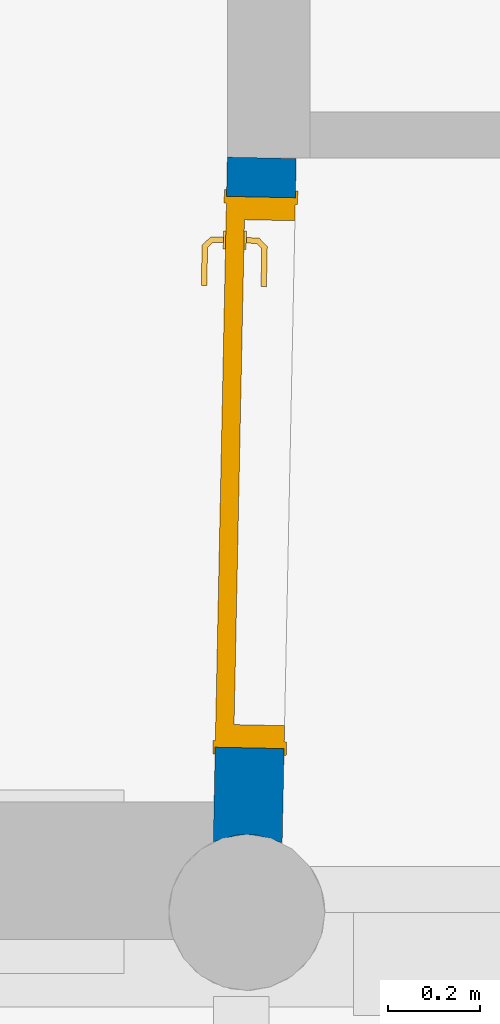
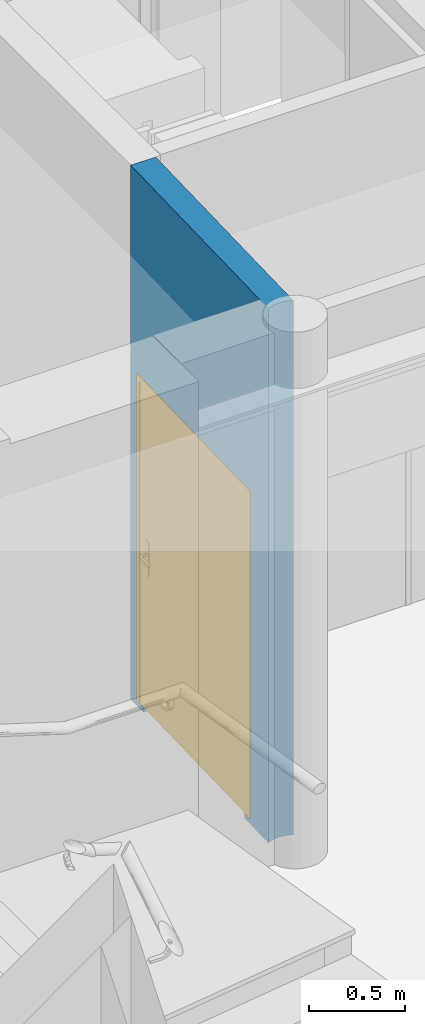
# One storey, part 42 of 65: 1 door, 1 wall, 1 opening.
"""IFC4 building model written with IfcOpenShell, lengths in metres."""

from ifc_helpers import new_model, entity, si_unit, converted_unit, derived_unit, direction, frame, origin, place, context, subcontext, project, spatial, indexed_curve, outline, extrude, polygons, source, transform, mapped, material, material_list, layer, layer_set, constituent, constituent_set, type_object, type_shapes, element, fill, save


model = new_model("IFC4")

# Units and contexts
model_context = context("Model", 3, precision=1e-05, world=origin(), true_north=direction((6.12303176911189e-17, 1.0)))
body_context = subcontext(model_context, "Body", "Model", "MODEL_VIEW")
ifc_project = project(units=[si_unit("LENGTHUNIT", "METRE"), si_unit("AREAUNIT", "SQUARE_METRE"), si_unit("VOLUMEUNIT", "CUBIC_METRE"), converted_unit("PLANEANGLEUNIT", "DEGREE", entity("IfcRatioMeasure", 0.0174532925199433), si_unit("PLANEANGLEUNIT", "RADIAN"), dimensions=[0, 0, 0, 0, 0, 0, 0]), si_unit("MASSUNIT", "GRAM", prefix="KILO"), derived_unit("MASSDENSITYUNIT", [(si_unit("MASSUNIT", "GRAM", prefix="KILO"), 1), (si_unit("LENGTHUNIT", "METRE"), -3)]), derived_unit("MOMENTOFINERTIAUNIT", [(si_unit("LENGTHUNIT", "METRE"), 4)]), si_unit("TIMEUNIT", "SECOND"), si_unit("FREQUENCYUNIT", "HERTZ"), si_unit("THERMODYNAMICTEMPERATUREUNIT", "DEGREE_CELSIUS"), derived_unit("THERMALTRANSMITTANCEUNIT", [(si_unit("MASSUNIT", "GRAM", prefix="KILO"), 1), (si_unit("THERMODYNAMICTEMPERATUREUNIT", "KELVIN"), -1), (si_unit("TIMEUNIT", "SECOND"), -3)]), derived_unit("VOLUMETRICFLOWRATEUNIT", [(si_unit("LENGTHUNIT", "METRE"), 3), (si_unit("TIMEUNIT", "SECOND"), -1)]), si_unit("ELECTRICCURRENTUNIT", "AMPERE"), si_unit("ELECTRICVOLTAGEUNIT", "VOLT"), si_unit("POWERUNIT", "WATT"), si_unit("FORCEUNIT", "NEWTON", prefix="KILO"), si_unit("ILLUMINANCEUNIT", "LUX"), si_unit("LUMINOUSFLUXUNIT", "LUMEN"), si_unit("LUMINOUSINTENSITYUNIT", "CANDELA"), derived_unit("USERDEFINED", [(si_unit("MASSUNIT", "GRAM", prefix="KILO"), -1), (si_unit("LENGTHUNIT", "METRE"), -2), (si_unit("TIMEUNIT", "SECOND"), 3), (si_unit("LUMINOUSFLUXUNIT", "LUMEN"), 1)]), derived_unit("LINEARVELOCITYUNIT", [(si_unit("LENGTHUNIT", "METRE"), 1), (si_unit("TIMEUNIT", "SECOND"), -1)]), si_unit("PRESSUREUNIT", "PASCAL"), derived_unit("USERDEFINED", [(si_unit("LENGTHUNIT", "METRE"), -2), (si_unit("MASSUNIT", "GRAM", prefix="KILO"), 1), (si_unit("TIMEUNIT", "SECOND"), -2)]), derived_unit("LINEARFORCEUNIT", [(si_unit("MASSUNIT", "GRAM", prefix="KILO"), 1), (si_unit("LENGTHUNIT", "METRE"), 1), (si_unit("TIMEUNIT", "SECOND"), -2), (si_unit("LENGTHUNIT", "METRE"), -1)]), derived_unit("PLANARFORCEUNIT", [(si_unit("MASSUNIT", "GRAM", prefix="KILO"), 1), (si_unit("LENGTHUNIT", "METRE"), 1), (si_unit("TIMEUNIT", "SECOND"), -2), (si_unit("LENGTHUNIT", "METRE"), -2)])], contexts=[model_context])

# Site, building, storey
site_placement = place(None, origin())
site = spatial("IfcSite", under=ifc_project, at=site_placement, Name="Default", CompositionType="ELEMENT")
building_placement = place(site_placement, origin())
building = spatial("IfcBuilding", under=site, at=building_placement, Name="HOTEL CONSULAIRE BOULOGNE SUR MER", CompositionType="ELEMENT")
storey_placement = place(building_placement, origin())
storey = spatial("IfcBuildingStorey", under=building, at=storey_placement, Name="Niveau 0", CompositionType="ELEMENT", Elevation=1.31981936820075e-13)

# Wall, opening, door
ifc_material_1 = material(Name="Mur par défaut", Category="Divers")
ifc_layer = layer(ifc_material_1, 0.15, Name="Mur par défaut", Category="Divers")
ifc_layer_set = layer_set([ifc_layer], Name="Mur de base:Générique - Int. 150 mm")
wall_type = type_object("IfcWallType", Name="Mur de base:Générique - Int. 150 mm", PredefinedType="NOTDEFINED", material=ifc_layer_set)
wall_placement = place(storey_placement, frame((7.20380008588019, -13.9723552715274, -0.0200000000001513), z_axis=(0.0, 0.0, 1.0), x_axis=(-0.0205401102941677, -0.999789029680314, 0.0)))
wall = element("IfcWall", 1, at=wall_placement, inside=storey, type_object=wall_type, material=ifc_layer_set, Name="Mur de base:Générique - Int. 150 mm", ObjectType="Mur de base:Générique - Int. 150 mm", PredefinedType="NOTDEFINED", context=body_context, shape_type="Tessellation", body=[
    polygons([(1.28545747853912, -0.0749999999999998, 0.0350000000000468), (1.28545747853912, 0.0750000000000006, 0.0350000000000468), (1.2354574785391, 0.0750000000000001, 0.0350000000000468), (1.2354574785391, -0.0750000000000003, 0.0350000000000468), (1.49076012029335, 0.0749999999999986, -2.15727435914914e-16), (1.47801151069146, 0.0384028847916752, -2.15727435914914e-16), (1.47388264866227, -0.000130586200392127, -2.15727435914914e-16), (1.47858810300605, -0.038597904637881, -2.15727435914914e-16), (1.49188334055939, -0.0750000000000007, -2.15727435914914e-16), (1.40472363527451, -0.0749999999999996, -2.15727435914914e-16), (1.2354574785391, -0.0749999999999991, -2.15727435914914e-16), (1.2354574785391, 0.0750000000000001, -2.15727435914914e-16), (1.28545747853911, -0.0749999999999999, 2.11000000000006), (1.49188334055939, -0.0750000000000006, 3.40652697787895), (2.16573425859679e-15, -0.0749999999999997, 3.40652697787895), (6.49720277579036e-15, -0.0749999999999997, 0.0350000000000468), (0.0854574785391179, -0.0749999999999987, 0.0350000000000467), (0.0854574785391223, -0.0749999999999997, 2.11000000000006), (1.28545747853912, 0.0750000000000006, 2.11000000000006), (0.0854574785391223, 0.0749999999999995, 2.11000000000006), (0.0854574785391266, 0.0749999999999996, 0.0350000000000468), (0.135457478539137, 0.0749999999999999, 0.0350000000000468), (0.135457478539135, 0.0749999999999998, -2.15727435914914e-16), (2.16573425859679e-15, 0.0750000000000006, 0.0), (4.33146851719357e-15, 0.0750000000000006, 3.40652697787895), (1.49076012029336, 0.0750000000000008, 3.40652697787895), (0.13545747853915, -0.0720527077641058, -2.15727435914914e-16), (2.16573425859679e-15, -0.0748356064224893, -2.15727435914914e-16), (0.0, 4.39914771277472e-16, -2.15727435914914e-16), (2.16573425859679e-15, -0.0748356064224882, 0.0350000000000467), (2.16573425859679e-15, -0.0748356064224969, 3.40652697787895), (0.0, -5.81025894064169e-14, 3.40652697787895), (0.0854574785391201, -0.0730799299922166, 0.0350000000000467), (0.13545747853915, -0.0720527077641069, 0.0350000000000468), (1.47801151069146, 0.0384028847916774, 3.40652697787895), (1.47388264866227, -0.000130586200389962, 3.40652697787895), (1.47858810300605, -0.0385979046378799, 3.40652697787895), (1.49076012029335, 0.0750000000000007, 1.82104986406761), (1.49188334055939, -0.0750000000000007, 1.58547797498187), (1.47484545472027, 0.0192541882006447, 1.1162216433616), (1.47513564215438, -0.0194987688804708, 2.29030533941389), (1.49076012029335, 0.0750000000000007, 2.49600156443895), (1.49188334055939, -0.0750000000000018, 0.91052574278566), (1.49076012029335, 0.0750000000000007, 0.910524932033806), (1.49188334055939, -0.0750000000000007, 2.49600371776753), (1.47484545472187, 0.0192541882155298, 2.72257297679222), (1.47513564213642, -0.0194987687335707, 0.683954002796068), (1.47571836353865, 0.0260898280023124, 1.91939731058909), (1.47611081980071, -0.0263205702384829, 1.48712967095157), (1.47484545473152, 0.0192541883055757, 0.516163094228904), (1.47513564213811, -0.0194987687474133, 2.89036388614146)], [[[3, 4, 1, 2]], [[21, 33, 34, 22]], [[36, 35, 26, 25, 32, 31, 15, 14, 37]], [[8, 9, 10, 11, 12, 5, 6, 7]], [[27, 28, 29, 24, 23]], [[20, 19, 13, 18]], [[17, 16, 30, 33]], [[16, 17, 18, 13, 1, 4, 11, 10, 9, 43, 39, 45, 14, 15]], [[5, 12, 3, 2, 19, 20, 21, 22, 23, 24, 25, 26, 42, 38, 44]], [[16, 15, 31, 32, 25, 24, 29, 28, 30]], [[2, 1, 13, 19]], [[4, 3, 12, 11]], [[33, 21, 20, 18, 17]], [[34, 27, 23, 22]], [[50, 7, 6]], [[43, 9, 8]], [[45, 37, 14]], [[46, 42, 35]], [[44, 38, 40, 50]], [[49, 40, 48]], [[6, 44, 50]], [[51, 41, 46]], [[47, 50, 40]], [[44, 6, 5]], [[42, 26, 35]], [[45, 39, 41, 51]], [[37, 51, 36]], [[48, 46, 41]], [[36, 46, 35]], [[51, 37, 45]], [[47, 40, 49]], [[48, 41, 49]], [[47, 8, 7]], [[38, 42, 48]], [[47, 43, 8]], [[39, 43, 49]], [[46, 48, 42]], [[48, 40, 38]], [[47, 49, 43]], [[49, 41, 39]], [[7, 50, 47]], [[36, 51, 46]], [[33, 30, 28, 27, 34]]], closed=True),
])
opening_placement = place(wall_placement, frame((1.28545747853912, 0.0750000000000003, 0.0350000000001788)))
opening = element("IfcOpeningElement", 2, at=opening_placement, cuts=wall, Name="Int. Simple:1.13x2.04 vitrée:1", ObjectType="Opening", PredefinedType="OPENING", context=body_context, shape_type="SweptSolid", body=[
    extrude(outline(indexed_curve([(0.0, 0.0), (2.07500000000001, 0.0), (2.07500000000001, 1.2), (0.0, 1.2), (0.0, 0.0)], self_intersect=False)), frame((0.0, 0.0, 0.0), z_axis=(0.0, -1.0, 0.0), x_axis=(0.0, 0.0, 1.0)), (0.0, 0.0, 1.0), 0.15),
])
ifc_material_2 = material(Name="Finition Peinture - Blanc satiné", Category="Peinture")
ifc_constituent_1 = constituent(ifc_material_2, Name="Finition Peinture - Blanc satiné", Category="Matériaux")
ifc_material_3 = material(Name="Verre", Category="Verre")
ifc_constituent_2 = constituent(ifc_material_3, Name="Verre", Category="Matériaux")
ifc_material_4 = material(Name="PVC, souple", Category="Plastique")
ifc_constituent_3 = constituent(ifc_material_4, Name="PVC, souple", Category="Matériaux")
ifc_constituent_set = constituent_set(constituents=[ifc_constituent_1, ifc_constituent_2, ifc_constituent_3], Name="MaterialConstituentSet")
ifc_material_list = material_list([ifc_material_3, ifc_material_4, ifc_material_2, ifc_material_4])
door_type = type_object("IfcDoorType", Name="Int. Simple:1.13x2.04 vitrée", OperationType="NOTDEFINED", PredefinedType="DOOR", material=ifc_material_list)
shared_shape = source(origin(), body_context, "Body", "Tessellation", [
    polygons([(0.0750000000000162, -0.00500000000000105, 0.870000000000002), (0.0846472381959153, -0.00500000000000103, 0.866003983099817), (0.095000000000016, -0.00500000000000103, 0.86464101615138), (0.105352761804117, -0.00500000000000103, 0.866003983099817), (0.115000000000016, -0.00500000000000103, 0.870000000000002), (0.115000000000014, -0.00500000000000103, 1.08), (0.105352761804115, -0.00500000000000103, 1.08399601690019), (0.0950000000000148, -0.00500000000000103, 1.08535898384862), (0.084647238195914, -0.00500000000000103, 1.08399601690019), (0.075000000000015, -0.00500000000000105, 1.08), (0.0750000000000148, -1.04902753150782e-15, 0.870000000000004), (0.075000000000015, -1.04902753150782e-15, 1.08), (0.084647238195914, -1.04902753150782e-15, 1.08399601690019), (0.0950000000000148, -1.04056763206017e-15, 1.08535898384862), (0.105352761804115, -1.04056763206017e-15, 1.08399601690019), (0.115000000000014, -1.03210773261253e-15, 1.08), (0.115000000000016, -1.03210773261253e-15, 0.870000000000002), (0.105352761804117, -1.04056763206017e-15, 0.866003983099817), (0.095000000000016, -1.04056763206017e-15, 0.86464101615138), (0.0846472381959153, -1.04902753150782e-15, 0.866003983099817)], [[[4, 5, 6, 7, 8, 9, 10, 1, 2, 3]], [[15, 16, 17, 18, 19, 20, 11, 12, 13, 14]], [[11, 20, 2, 1]], [[2, 20, 19, 3]], [[19, 18, 4, 3]], [[18, 17, 5, 4]], [[6, 5, 17, 16]], [[16, 15, 7, 6]], [[7, 15, 14, 8]], [[14, 13, 9, 8]], [[13, 12, 10, 9]], [[1, 10, 12, 11]]], closed=True),
    polygons([(0.115000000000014, 0.0399999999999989, 1.08), (0.105352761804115, 0.0399999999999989, 1.08399601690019), (0.0950000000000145, 0.0399999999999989, 1.08535898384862), (0.0846472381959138, 0.0399999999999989, 1.08399601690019), (0.0750000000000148, 0.0399999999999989, 1.08), (0.0750000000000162, 0.0399999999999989, 0.870000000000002), (0.0846472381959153, 0.0399999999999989, 0.866003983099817), (0.0950000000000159, 0.0399999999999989, 0.86464101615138), (0.105352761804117, 0.0399999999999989, 0.866003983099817), (0.115000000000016, 0.0399999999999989, 0.870000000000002), (0.115000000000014, 0.044999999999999, 1.08), (0.115000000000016, 0.044999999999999, 0.870000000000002), (0.105352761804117, 0.0449999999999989, 0.866003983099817), (0.0950000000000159, 0.0449999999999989, 0.86464101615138), (0.0846472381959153, 0.0449999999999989, 0.866003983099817), (0.0750000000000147, 0.0449999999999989, 0.870000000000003), (0.0750000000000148, 0.0449999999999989, 1.08), (0.0846472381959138, 0.0449999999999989, 1.08399601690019), (0.0950000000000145, 0.0449999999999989, 1.08535898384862), (0.105352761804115, 0.0449999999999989, 1.08399601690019)], [[[9, 10, 1, 2, 3, 4, 5, 6, 7, 8]], [[20, 11, 12, 13, 14, 15, 16, 17, 18, 19]], [[11, 20, 2, 1]], [[2, 20, 19, 3]], [[19, 18, 4, 3]], [[18, 17, 5, 4]], [[6, 5, 17, 16]], [[16, 15, 7, 6]], [[7, 15, 14, 8]], [[14, 13, 9, 8]], [[13, 12, 10, 9]], [[1, 10, 12, 11]]], closed=True),
    polygons([(0.088999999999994, -0.00500000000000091, 1.007), (0.092974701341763, -0.00500000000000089, 1.00778044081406), (0.0970252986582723, -0.00500000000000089, 1.00778044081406), (0.101000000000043, -0.00500000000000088, 1.00699999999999), (0.101000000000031, -0.00500000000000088, 0.993000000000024), (0.0970252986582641, -0.00500000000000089, 0.992219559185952), (0.0929747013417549, -0.00500000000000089, 0.99221955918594), (0.0889999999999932, -0.00500000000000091, 0.992999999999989), (0.0889999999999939, -0.0326509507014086, 1.007), (0.0929747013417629, -0.0310045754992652, 1.00778044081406), (0.0970252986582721, -0.0293267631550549, 1.00778044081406), (0.101000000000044, -0.0276803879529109, 1.007), (0.101000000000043, -0.0276803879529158, 0.993000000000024), (0.0970252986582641, -0.0293267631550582, 0.992219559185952), (0.092974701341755, -0.0310045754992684, 0.99221955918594), (0.0889999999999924, -0.0326509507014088, 0.992999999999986), (0.107377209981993, -0.051028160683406, 1.007), (0.109023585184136, -0.0470534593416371, 1.00778044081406), (0.110701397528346, -0.0430028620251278, 1.00778044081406), (0.112347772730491, -0.0390281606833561, 1.007), (0.112347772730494, -0.0390281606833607, 0.993000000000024), (0.110701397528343, -0.0430028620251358, 0.992219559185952), (0.109023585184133, -0.0470534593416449, 0.99221955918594), (0.107377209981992, -0.0510281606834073, 0.992999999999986), (0.195018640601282, -0.0510281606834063, 1.00699999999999), (0.195018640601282, -0.051028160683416, 0.992999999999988), (0.195018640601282, -0.0470534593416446, 0.99221955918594), (0.195018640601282, -0.0430028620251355, 0.992219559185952), (0.195018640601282, -0.0390281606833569, 0.993000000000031), (0.195018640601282, -0.0390281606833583, 1.007), (0.195018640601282, -0.0430028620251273, 1.00778044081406), (0.195018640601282, -0.0470534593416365, 1.00778044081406), (0.147307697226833, -0.0510281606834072, 1.007), (0.152860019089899, -0.045028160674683, 1.0078786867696), (0.153683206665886, -0.039028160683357, 1.007), (0.147307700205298, -0.0510281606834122, 0.992999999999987), (0.152860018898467, -0.0450281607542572, 0.992121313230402), (0.153683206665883, -0.0390281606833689, 0.993000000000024)], [[[2, 3, 4, 5, 6, 7, 8, 1]], [[21, 20, 35, 30, 29, 38]], [[9, 10, 2, 1]], [[10, 18, 19, 11, 3, 2]], [[11, 12, 4, 3]], [[5, 4, 12, 13]], [[26, 27, 28, 29, 30, 31, 32, 25]], [[13, 14, 6, 5]], [[14, 22, 23, 15, 7, 6]], [[15, 16, 8, 7]], [[1, 8, 16, 9]], [[17, 18, 10, 9]], [[19, 20, 12, 11]], [[13, 12, 20, 21]], [[21, 22, 14, 13]], [[23, 24, 16, 15]], [[9, 16, 24, 17]], [[33, 32, 34]], [[25, 32, 33]], [[18, 17, 33]], [[34, 35, 19]], [[20, 19, 35]], [[35, 31, 30]], [[32, 31, 34]], [[31, 35, 34]], [[18, 33, 34]], [[18, 34, 19]], [[38, 28, 37]], [[36, 37, 27]], [[21, 38, 22]], [[38, 29, 28]], [[26, 36, 27]], [[24, 23, 36]], [[36, 23, 37]], [[23, 22, 37]], [[22, 38, 37]], [[27, 37, 28]], [[17, 24, 36, 26, 25, 33]]], closed=True),
    polygons([(0.101000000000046, 0.0449999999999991, 0.993000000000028), (0.101000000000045, 0.0449999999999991, 1.007), (0.0970252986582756, 0.0449999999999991, 1.00778044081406), (0.0929747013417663, 0.0449999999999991, 1.00778044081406), (0.0889999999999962, 0.0449999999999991, 1.007), (0.0889999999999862, 0.0449999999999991, 0.992999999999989), (0.0929747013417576, 0.0449999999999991, 0.99221955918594), (0.0970252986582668, 0.0449999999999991, 0.992219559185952), (0.101000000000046, 0.067485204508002, 0.993000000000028), (0.101000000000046, 0.0674852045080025, 1.007), (0.0970252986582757, 0.0691315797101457, 1.00778044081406), (0.0929747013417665, 0.070809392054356, 1.00778044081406), (0.0889999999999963, 0.0724557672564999, 1.007), (0.0889999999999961, 0.0724557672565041, 0.992999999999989), (0.0929747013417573, 0.0708093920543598, 0.99221955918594), (0.0970252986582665, 0.0691315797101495, 0.992219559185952), (0.112485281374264, 0.0789704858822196, 0.993000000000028), (0.112485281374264, 0.0789704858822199, 1.007), (0.110838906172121, 0.0829451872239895, 1.00778044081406), (0.10916109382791, 0.0869957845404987, 1.00778044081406), (0.107514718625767, 0.090970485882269, 1.007), (0.10751471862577, 0.090970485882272, 0.992999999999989), (0.109161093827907, 0.0869957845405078, 0.99221955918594), (0.110838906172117, 0.0829451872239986, 0.992219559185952), (0.19504578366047, 0.0789704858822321, 0.993000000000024), (0.19504578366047, 0.0829451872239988, 0.992219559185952), (0.19504578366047, 0.086995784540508, 0.99221955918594), (0.19504578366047, 0.0909704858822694, 0.992999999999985), (0.19504578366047, 0.0909704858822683, 1.007), (0.19504578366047, 0.0869957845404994, 1.00778044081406), (0.19504578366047, 0.0829451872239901, 1.00778044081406), (0.19504578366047, 0.0789704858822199, 1.007), (0.147445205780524, 0.0909704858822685, 1.007), (0.15294234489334, 0.0849704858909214, 1.0078786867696), (0.153765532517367, 0.0789704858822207, 1.007), (0.147445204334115, 0.0909704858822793, 0.992999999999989), (0.152942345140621, 0.0849704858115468, 0.992121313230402), (0.153765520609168, 0.0789704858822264, 0.993000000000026)], [[[4, 5, 6, 7, 8, 1, 2, 3]], [[18, 17, 38, 25, 32, 35]], [[2, 1, 9, 10]], [[25, 26, 27, 28, 29, 30, 31, 32]], [[10, 11, 3, 2]], [[11, 19, 20, 12, 4, 3]], [[12, 13, 5, 4]], [[6, 5, 13, 14]], [[14, 15, 7, 6]], [[15, 23, 24, 16, 8, 7]], [[16, 9, 1, 8]], [[10, 9, 17, 18]], [[18, 19, 11, 10]], [[20, 21, 13, 12]], [[14, 13, 21, 22]], [[22, 23, 15, 14]], [[24, 17, 9, 16]], [[35, 31, 34]], [[33, 34, 30]], [[18, 35, 19]], [[35, 32, 31]], [[29, 33, 30]], [[21, 20, 33]], [[33, 20, 34]], [[20, 19, 34]], [[19, 35, 34]], [[30, 34, 31]], [[21, 33, 29, 28, 36, 22]], [[36, 27, 37]], [[28, 27, 36]], [[23, 22, 36]], [[37, 38, 24]], [[17, 24, 38]], [[38, 26, 25]], [[27, 26, 37]], [[26, 38, 37]], [[23, 36, 37]], [[23, 37, 24]]], closed=True),
    polygons([(0.0350000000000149, 0.04, 2.04), (1.16500000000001, 0.04, 2.04), (1.16500000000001, 0.04, 0.0), (0.0350000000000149, 0.04, 0.0), (0.0350000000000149, 5.07593966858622e-17, 2.04), (0.0350000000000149, 5.07593966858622e-17, 0.0), (1.16500000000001, 5.07593966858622e-17, 0.0), (1.16500000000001, 5.07593966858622e-17, 2.04)], [[[4, 1, 2, 3]], [[7, 8, 5, 6]], [[2, 1, 5, 8]], [[3, 2, 8, 7]], [[4, 3, 7, 6]], [[1, 4, 6, 5]]], closed=True),
    polygons([(0.0, 1.69197988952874e-17, 0.0), (0.0, 0.150000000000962, 0.0), (0.0500000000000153, 0.150000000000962, 0.0), (0.0500000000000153, 0.0400000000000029, 0.0), (0.0350000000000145, 0.0400000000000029, 0.0), (0.0350000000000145, 1.69197988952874e-17, 0.0), (0.0, 1.69197988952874e-17, 2.07500000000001), (0.0, 0.150000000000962, 2.07500000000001), (1.19999999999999, 0.150000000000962, 2.07500000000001), (1.19999999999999, 0.150000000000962, 0.0), (1.14999999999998, 0.150000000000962, 4.03399441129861e-24), (1.14999999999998, 0.150000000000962, 2.025), (0.0500000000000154, 0.150000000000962, 2.02499999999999), (0.0500000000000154, 0.0400000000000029, 2.02499999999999), (1.14999999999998, 0.0400000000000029, 2.025), (1.14999999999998, 0.0400000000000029, -1.74308291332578e-24), (1.16499999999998, 0.0400000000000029, -4.28299572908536e-25), (1.16499999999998, 0.0400000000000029, 2.04), (0.0350000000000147, 0.0400000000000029, 2.04), (0.0350000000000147, 1.69197988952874e-17, 2.04), (1.16499999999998, 1.69197988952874e-17, 2.04), (1.16499999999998, 1.69197988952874e-17, 1.58196069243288e-24), (1.19999999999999, 1.69197988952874e-17, 2.45203694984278e-24), (1.19999999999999, 1.69197988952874e-17, 2.07500000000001)], [[[5, 6, 1, 2, 3, 4]], [[11, 10, 23, 22, 17, 16]], [[14, 13, 12, 15]], [[20, 19, 18, 21]], [[2, 1, 7, 8]], [[15, 12, 11, 16]], [[21, 18, 17, 22]], [[3, 2, 8, 9, 10, 11, 12, 13]], [[4, 3, 13, 14]], [[6, 5, 19, 20]], [[9, 24, 23, 10]], [[16, 17, 18, 19, 5, 4, 14, 15]], [[22, 23, 24, 7, 1, 6, 20, 21]], [[8, 7, 24, 9]]], closed=True),
    polygons([(0.015, 0.150000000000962, 0.0), (-0.015, 0.150000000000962, 0.0), (-0.015, 0.155000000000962, 0.0), (0.015, 0.155000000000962, 0.0), (0.0149999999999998, 0.150000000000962, 2.06000000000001), (1.185, 0.150000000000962, 2.06000000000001), (1.18499999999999, 0.150000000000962, -4.03399441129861e-24), (1.21499999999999, 0.150000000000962, -8.06798882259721e-24), (1.21499999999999, 0.150000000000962, 2.09000000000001), (-0.0149999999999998, 0.150000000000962, 2.09000000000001), (-0.0149999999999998, 0.155000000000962, 2.09000000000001), (1.215, 0.155000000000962, 2.09000000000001), (1.215, 0.155000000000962, -8.66633177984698e-24), (1.185, 0.155000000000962, 1.67922324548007e-24), (1.185, 0.155000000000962, 2.06000000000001), (0.015, 0.155000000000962, 2.06000000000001)], [[[1, 2, 3, 4]], [[14, 13, 8, 7]], [[5, 16, 15, 6]], [[7, 8, 9, 10, 2, 1, 5, 6]], [[3, 2, 10, 11]], [[6, 15, 14, 7]], [[4, 3, 11, 12, 13, 14, 15, 16]], [[1, 4, 16, 5]], [[12, 9, 8, 13]], [[11, 10, 9, 12]]], closed=True),
    polygons([(1.185, -0.00499999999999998, 5.41433564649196e-16), (1.185, 1.69197988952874e-17, 5.41433564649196e-16), (1.21499999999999, 1.69197988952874e-17, 5.41433564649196e-16), (1.21499999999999, -0.00499999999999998, 5.41433564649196e-16), (0.015, -0.00499999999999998, 0.0), (-0.015, -0.00499999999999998, 0.0), (-0.015, 1.69197988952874e-17, 0.0), (0.015, 1.69197988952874e-17, 0.0), (0.0149999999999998, -0.00499999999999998, 2.06000000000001), (1.185, -0.00499999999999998, 2.06000000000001), (1.21499999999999, -0.00499999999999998, 2.09000000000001), (-0.0149999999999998, -0.00499999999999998, 2.09000000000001), (-0.0149999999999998, 1.69197988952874e-17, 2.09000000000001), (1.215, 1.69197988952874e-17, 2.09000000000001), (1.185, 1.69197988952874e-17, 2.06000000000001), (0.015, 1.69197988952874e-17, 2.06000000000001)], [[[2, 3, 4, 1]], [[6, 7, 8, 5]], [[9, 16, 15, 10]], [[1, 4, 11, 12, 6, 5, 9, 10]], [[7, 6, 12, 13]], [[10, 15, 2, 1]], [[8, 7, 13, 14, 3, 2, 15, 16]], [[5, 8, 16, 9]], [[14, 11, 4, 3]], [[13, 12, 11, 14]]], closed=True),
])
type_shapes(door_type, [shared_shape])
door_placement = place(opening_placement, frame((-1.2, -0.15, 0.0)))
door = element("IfcDoor", 3, at=door_placement, inside=storey, type_object=door_type, material=ifc_constituent_set, Name="Int. Simple:1.13x2.04 vitrée", ObjectType="Int. Simple:1.13x2.04 vitrée", OperationType="NOTDEFINED", OverallHeight=2.07500000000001, OverallWidth=1.2, PredefinedType="DOOR", context=body_context, shape_type="MappedRepresentation", body=[
    mapped(shared_shape, transform((0.0, 0.0, 0.0), scale=1.0)),
])
fill(opening, door)

save(model, "model.ifc")
